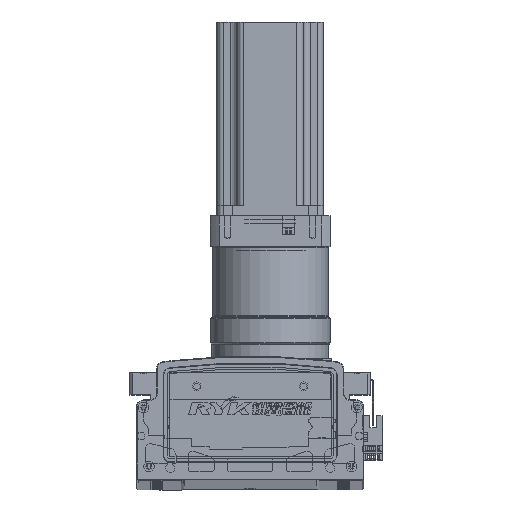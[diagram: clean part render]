
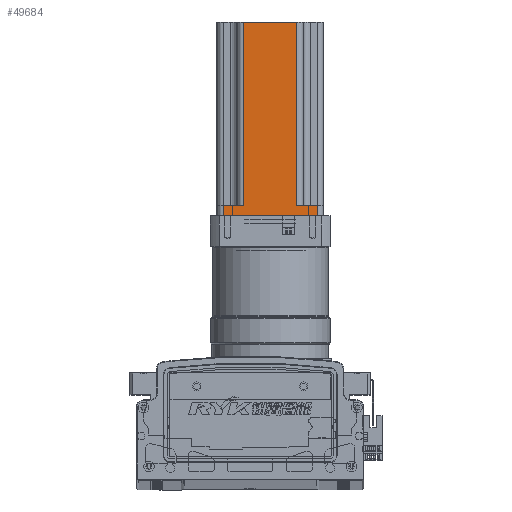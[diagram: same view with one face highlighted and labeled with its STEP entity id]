
A CAD part, top view. The second image highlights one B-rep face of the part: STEP entity #49684.
In plain terms, the highlighted planar face has unit normal (0, 0, 1) as drawn and (0, -1, 0) by its records, which use the part's own axes.
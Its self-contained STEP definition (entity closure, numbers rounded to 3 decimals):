
#285 = CARTESIAN_POINT ( 'NONE',  ( -82.587, -40.37, 8. ) ) ;
#1824 = EDGE_CURVE ( 'NONE', #42910, #42882, #82138, .T. ) ;
#1871 = EDGE_CURVE ( 'NONE', #42877, #42936, #82082, .T. ) ;
#1899 = EDGE_CURVE ( 'NONE', #29620, #66372, #82056, .T. ) ;
#1920 = EDGE_CURVE ( 'NONE', #29620, #42875, #82257, .T. ) ;
#1922 = EDGE_CURVE ( 'NONE', #42867, #42910, #82307, .T. ) ;
#1962 = EDGE_CURVE ( 'NONE', #42882, #42936, #82303, .T. ) ;
#1969 = EDGE_CURVE ( 'NONE', #42877, #66372, #82231, .T. ) ;
#1983 = EDGE_CURVE ( 'NONE', #42867, #42875, #82210, .T. ) ;
#2293 = CARTESIAN_POINT ( 'NONE',  ( -12.587, -40.37, 8. ) ) ;
#2296 = CARTESIAN_POINT ( 'NONE',  ( -82.587, -40.37, 0. ) ) ;
#20834 = CARTESIAN_POINT ( 'NONE',  ( -12.587, -40.37, 0. ) ) ;
#27251 = CARTESIAN_POINT ( 'NONE',  ( -87.587, -40.37, 145. ) ) ;
#27253 = PLANE ( 'NONE',  #94104 ) ;
#27283 = DIRECTION ( 'NONE',  ( 0., 1., 0. ) ) ;
#27294 = DIRECTION ( 'NONE',  ( -1., 0., 0. ) ) ;
#29316 = CARTESIAN_POINT ( 'NONE',  ( -67.587, -40.37, 8. ) ) ;
#29327 = CARTESIAN_POINT ( 'NONE',  ( -27.587, -40.37, 8. ) ) ;
#29620 = VERTEX_POINT ( 'NONE', #80936 ) ;
#42867 = VERTEX_POINT ( 'NONE', #285 ) ;
#42875 = VERTEX_POINT ( 'NONE', #29316 ) ;
#42877 = VERTEX_POINT ( 'NONE', #29327 ) ;
#42882 = VERTEX_POINT ( 'NONE', #20834 ) ;
#42910 = VERTEX_POINT ( 'NONE', #2296 ) ;
#42936 = VERTEX_POINT ( 'NONE', #2293 ) ;
#49684 = ADVANCED_FACE ( 'NONE', ( #92213 ), #27253, .F. ) ;
#66372 = VERTEX_POINT ( 'NONE', #78614 ) ;
#78614 = CARTESIAN_POINT ( 'NONE',  ( -27.587, -40.37, 145. ) ) ;
#80936 = CARTESIAN_POINT ( 'NONE',  ( -67.587, -40.37, 145. ) ) ;
#82056 = LINE ( 'NONE', #104376, #82058 ) ;
#82058 = VECTOR ( 'NONE', #104372, 1000. ) ;
#82082 = LINE ( 'NONE', #107412, #82132 ) ;
#82132 = VECTOR ( 'NONE', #107402, 1000. ) ;
#82138 = LINE ( 'NONE', #107378, #82166 ) ;
#82166 = VECTOR ( 'NONE', #107382, 1000. ) ;
#82173 = VECTOR ( 'NONE', #104016, 1000. ) ;
#82179 = VECTOR ( 'NONE', #103984, 1000. ) ;
#82210 = LINE ( 'NONE', #104040, #82285 ) ;
#82229 = VECTOR ( 'NONE', #103995, 1000. ) ;
#82231 = LINE ( 'NONE', #104007, #82173 ) ;
#82233 = VECTOR ( 'NONE', #103988, 1000. ) ;
#82257 = LINE ( 'NONE', #103964, #82179 ) ;
#82285 = VECTOR ( 'NONE', #104056, 1000. ) ;
#82303 = LINE ( 'NONE', #104020, #82229 ) ;
#82307 = LINE ( 'NONE', #103970, #82233 ) ;
#92213 = FACE_OUTER_BOUND ( 'NONE', #111833, .T. ) ;
#94104 = AXIS2_PLACEMENT_3D ( 'NONE', #27251, #27283, #27294 ) ;
#103964 = CARTESIAN_POINT ( 'NONE',  ( -67.587, -40.37, 145. ) ) ;
#103970 = CARTESIAN_POINT ( 'NONE',  ( -82.587, -40.37, 145. ) ) ;
#103984 = DIRECTION ( 'NONE',  ( 0., 0., -1. ) ) ;
#103988 = DIRECTION ( 'NONE',  ( 0., 0., -1. ) ) ;
#103995 = DIRECTION ( 'NONE',  ( 0., 0., 1. ) ) ;
#104007 = CARTESIAN_POINT ( 'NONE',  ( -27.587, -40.37, 145. ) ) ;
#104016 = DIRECTION ( 'NONE',  ( 0., 0., 1. ) ) ;
#104020 = CARTESIAN_POINT ( 'NONE',  ( -12.587, -40.37, 145. ) ) ;
#104040 = CARTESIAN_POINT ( 'NONE',  ( -87.587, -40.37, 8. ) ) ;
#104056 = DIRECTION ( 'NONE',  ( 1., 0., 0. ) ) ;
#104372 = DIRECTION ( 'NONE',  ( 1., 0., 0. ) ) ;
#104376 = CARTESIAN_POINT ( 'NONE',  ( -87.587, -40.37, 145. ) ) ;
#107378 = CARTESIAN_POINT ( 'NONE',  ( -87.587, -40.37, 0. ) ) ;
#107382 = DIRECTION ( 'NONE',  ( 1., 0., 0. ) ) ;
#107402 = DIRECTION ( 'NONE',  ( 1., 0., 0. ) ) ;
#107412 = CARTESIAN_POINT ( 'NONE',  ( -7.587, -40.37, 8. ) ) ;
#111830 = ORIENTED_EDGE ( 'NONE', *, *, #1962, .T. ) ;
#111833 = EDGE_LOOP ( 'NONE', ( #112298, #112274, #112302, #111830, #112202, #112094, #118511, #118693 ) ) ;
#112094 = ORIENTED_EDGE ( 'NONE', *, *, #1969, .T. ) ;
#112202 = ORIENTED_EDGE ( 'NONE', *, *, #1871, .F. ) ;
#112274 = ORIENTED_EDGE ( 'NONE', *, *, #1922, .T. ) ;
#112298 = ORIENTED_EDGE ( 'NONE', *, *, #1983, .F. ) ;
#112302 = ORIENTED_EDGE ( 'NONE', *, *, #1824, .T. ) ;
#118511 = ORIENTED_EDGE ( 'NONE', *, *, #1899, .F. ) ;
#118693 = ORIENTED_EDGE ( 'NONE', *, *, #1920, .T. ) ;
